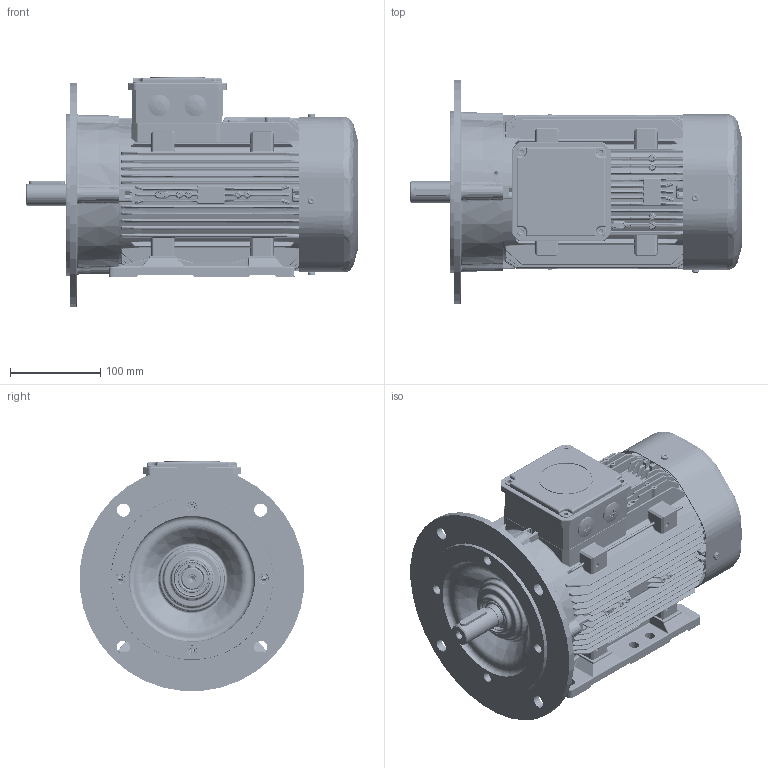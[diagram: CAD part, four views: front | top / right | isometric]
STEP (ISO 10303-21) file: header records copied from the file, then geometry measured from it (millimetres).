
FILE_DESCRIPTION(/* description */ (''),/* implementation_level */ '2;1');
FILE_NAME(/* name */ 'OUTLOOK VIEW QH90 PA B35 - BIGGER FF215 SPL.stp',/* time_stamp */ '2021-09-21T14:36:29+03:00',/* author */ (''),/* organization */ (''),/* preprocessor_version */ 'ST-DEVELOPER v16',/* originating_system */ 'SIEMENS PLM Software NX 11.0',/* authorisation */ '');
FILE_SCHEMA (('AUTOMOTIVE_DESIGN { 1 0 10303 214 3 1 1 1 }'));
Products named in the file (1): 260652D491E0rwv9
Bounding box: 367.71 x 248.55 x 254.58 mm (x, y, z)
Volume: 2044821.9 mm3; surface area: 1090581.6 mm2
Topology: 42 solids, 51 shells, 11003 faces, 26343 edges, 15089 vertices
Faces by surface type: cylinder 3653, bspline 3598, plane 2341, torus 501, sphere 442, cone 393, extrusion 75
Full cylindrical faces by diameter (mm): 2.5 x2, 3.242 x3, 3.4 x48, 4 x4, 4.2 x1, 4.6 x12, 4.722 x3, 5 x31, 5.5 x4, 6.8 x1, 8 x3, 8.4 x1, 9.874 x1, 10.5 x4, 14 x2, 14.5 x4, 19.4 x1, 20 x1, 21 x1, 23.38 x2, 23.4 x1, 23.9 x1, 24 x3, 24.4 x2, 25 x5, 25.5 x2, 27.5 x1, 27.94 x1, 29 x2, 30 x1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
Entity records: 394268 total; most frequent: CARTESIAN_POINT 160742, ORIENTED_EDGE 50108, DIRECTION 44844, EDGE_CURVE 25054, AXIS2_PLACEMENT_3D 18106, VERTEX_POINT 14844, EDGE_LOOP 11962, ADVANCED_FACE 10960
